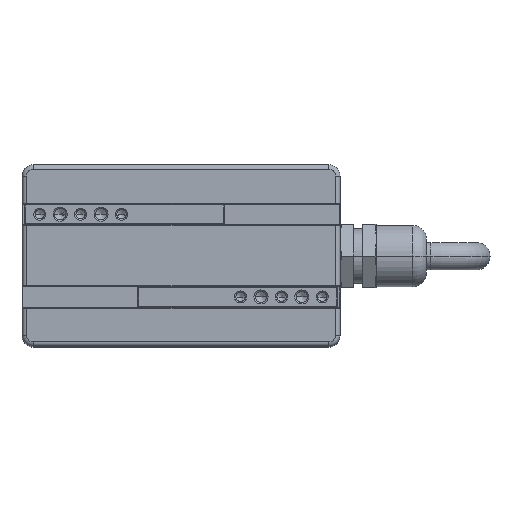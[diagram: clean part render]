
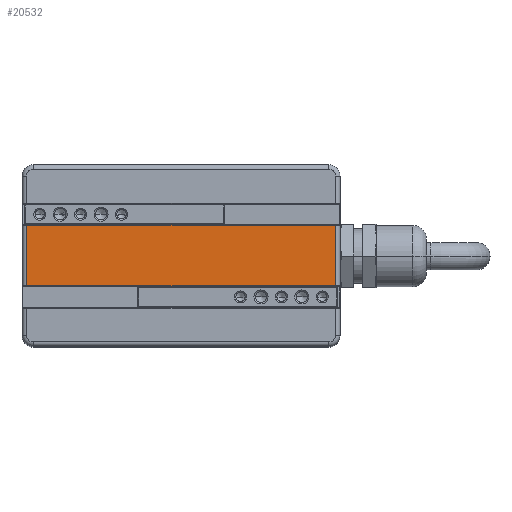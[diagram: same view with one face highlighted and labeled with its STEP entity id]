
A CAD part, top view. The second image highlights one B-rep face of the part: STEP entity #20532.
In plain terms, the highlighted planar face has unit normal (0, 0, 1).
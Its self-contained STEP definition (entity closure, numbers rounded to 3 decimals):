
#806 = CARTESIAN_POINT ( 'NONE',  ( 64.299, 41.329, 144.424 ) ) ;
#1839 = EDGE_CURVE ( 'NONE', #27536, #12279, #27164, .T. ) ;
#1962 = PLANE ( 'NONE',  #37270 ) ;
#2382 = ORIENTED_EDGE ( 'NONE', *, *, #67515, .T. ) ;
#2411 = VERTEX_POINT ( 'NONE', #30458 ) ;
#5138 = DIRECTION ( 'NONE',  ( 0., -1., 0. ) ) ;
#5177 = CARTESIAN_POINT ( 'NONE',  ( -3.701, 27.829, 144.424 ) ) ;
#5766 = ORIENTED_EDGE ( 'NONE', *, *, #41509, .T. ) ;
#6976 = LINE ( 'NONE', #15914, #62191 ) ;
#8482 = CARTESIAN_POINT ( 'NONE',  ( -3.701, 41.129, 144.424 ) ) ;
#11811 = CARTESIAN_POINT ( 'NONE',  ( -3.701, 41.129, 144.424 ) ) ;
#12279 = VERTEX_POINT ( 'NONE', #5177 ) ;
#12839 = VECTOR ( 'NONE', #43603, 1000. ) ;
#13016 = VECTOR ( 'NONE', #45915, 1000. ) ;
#15914 = CARTESIAN_POINT ( 'NONE',  ( 64.299, 27.829, 144.424 ) ) ;
#20532 = ADVANCED_FACE ( 'NONE', ( #26714 ), #1962, .T. ) ;
#23850 = DIRECTION ( 'NONE',  ( 0., 0., 1. ) ) ;
#26629 = DIRECTION ( 'NONE',  ( 1., 0., 0. ) ) ;
#26714 = FACE_OUTER_BOUND ( 'NONE', #67760, .T. ) ;
#27164 = LINE ( 'NONE', #31772, #54023 ) ;
#27536 = VERTEX_POINT ( 'NONE', #11811 ) ;
#27723 = EDGE_CURVE ( 'NONE', #38504, #27536, #41412, .T. ) ;
#30458 = CARTESIAN_POINT ( 'NONE',  ( 64.299, 27.829, 144.424 ) ) ;
#31772 = CARTESIAN_POINT ( 'NONE',  ( -3.701, 27.629, 144.424 ) ) ;
#32618 = CARTESIAN_POINT ( 'NONE',  ( 64.299, 41.129, 144.424 ) ) ;
#37080 = ORIENTED_EDGE ( 'NONE', *, *, #1839, .T. ) ;
#37270 = AXIS2_PLACEMENT_3D ( 'NONE', #55969, #23850, #61317 ) ;
#38504 = VERTEX_POINT ( 'NONE', #32618 ) ;
#39585 = LINE ( 'NONE', #806, #12839 ) ;
#41412 = LINE ( 'NONE', #8482, #13016 ) ;
#41509 = EDGE_CURVE ( 'NONE', #12279, #2411, #6976, .T. ) ;
#43603 = DIRECTION ( 'NONE',  ( 0., 1., 0. ) ) ;
#45915 = DIRECTION ( 'NONE',  ( -1., 0., 0. ) ) ;
#54023 = VECTOR ( 'NONE', #5138, 1000. ) ;
#55969 = CARTESIAN_POINT ( 'NONE',  ( 30.299, 34.479, 144.424 ) ) ;
#61317 = DIRECTION ( 'NONE',  ( 1., 0., 0. ) ) ;
#62191 = VECTOR ( 'NONE', #26629, 1000. ) ;
#63201 = ORIENTED_EDGE ( 'NONE', *, *, #27723, .T. ) ;
#67515 = EDGE_CURVE ( 'NONE', #2411, #38504, #39585, .T. ) ;
#67760 = EDGE_LOOP ( 'NONE', ( #37080, #5766, #2382, #63201 ) ) ;
